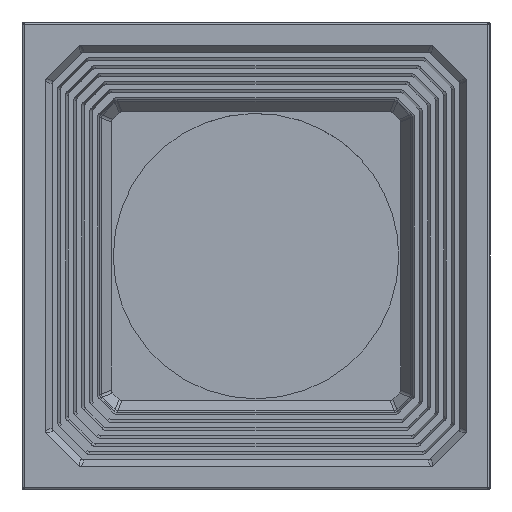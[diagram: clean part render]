
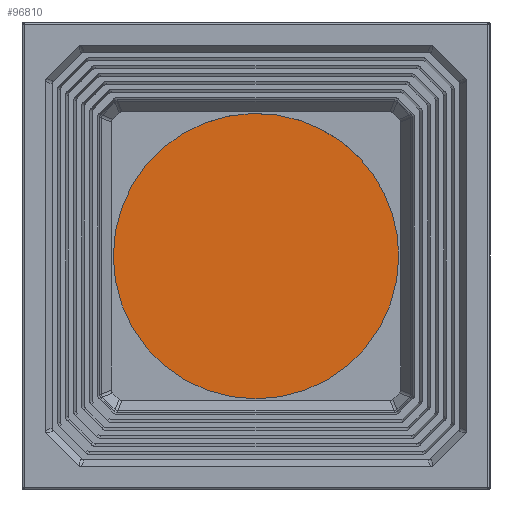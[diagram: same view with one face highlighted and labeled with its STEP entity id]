
A CAD part, top view. The second image highlights one B-rep face of the part: STEP entity #96810.
In plain terms, the highlighted planar face has unit normal (0, 0, 1).
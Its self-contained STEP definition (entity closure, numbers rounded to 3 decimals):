
#94280=CARTESIAN_POINT('',(0.,0.,14.2));
#94290=DIRECTION('',(0.,0.,1.));
#94300=DIRECTION('',(1.,0.,0.));
#94310=AXIS2_PLACEMENT_3D('',#94280,#94290,#94300);
#94320=PLANE('',#94310);
#94330=CARTESIAN_POINT('',(-9.45,1.55,14.2));
#94340=DIRECTION('',(0.,0.,-1.));
#94350=DIRECTION('',(1.,0.,0.));
#94360=AXIS2_PLACEMENT_3D('',#94330,#94340,#94350);
#94370=CIRCLE('',#94360,1.);
#94380=CARTESIAN_POINT('',(-10.45,1.55,14.2));
#94390=VERTEX_POINT('',#94380);
#94400=CARTESIAN_POINT('',(-10.386,1.902,14.2));
#94410=VERTEX_POINT('',#94400);
#94420=EDGE_CURVE('',#94390,#94410,#94370,.T.);
#94430=ORIENTED_EDGE('',*,*,#94420,.F.);
#94440=CARTESIAN_POINT('',(17.689,-8.671,14.2));
#94450=DIRECTION('',(0.,0.,-1.));
#94460=DIRECTION('',(1.,0.,0.));
#94470=AXIS2_PLACEMENT_3D('',#94440,#94450,#94460);
#94480=CIRCLE('',#94470,30.);
#94490=CARTESIAN_POINT('',(-9.249,4.533,14.2));
#94500=VERTEX_POINT('',#94490);
#94510=EDGE_CURVE('',#94410,#94500,#94480,.T.);
#94520=ORIENTED_EDGE('',*,*,#94510,.F.);
#94530=CARTESIAN_POINT('',(0.,0.,14.2));
#94540=DIRECTION('',(0.,0.,-1.));
#94550=DIRECTION('',(1.,0.,0.));
#94560=AXIS2_PLACEMENT_3D('',#94530,#94540,#94550);
#94570=CIRCLE('',#94560,10.3);
#94580=CARTESIAN_POINT('',(-6.117,8.287,14.2));
#94590=VERTEX_POINT('',#94580);
#94600=EDGE_CURVE('',#94500,#94590,#94570,.T.);
#94610=ORIENTED_EDGE('',*,*,#94600,.F.);
#94620=CARTESIAN_POINT('',(-5.82,7.884,14.2));
#94630=DIRECTION('',(0.,0.,-1.));
#94640=DIRECTION('',(1.,0.,0.));
#94650=AXIS2_PLACEMENT_3D('',#94620,#94630,#94640);
#94660=CIRCLE('',#94650,0.5);
#94670=CARTESIAN_POINT('',(-5.404,8.16,14.2));
#94680=VERTEX_POINT('',#94670);
#94690=EDGE_CURVE('',#94590,#94680,#94660,.T.);
#94700=ORIENTED_EDGE('',*,*,#94690,.F.);
#94710=CARTESIAN_POINT('',(0.,0.,14.2));
#94720=DIRECTION('',(0.552,-0.834,0.));
#94730=VECTOR('',#94720,1.);
#94740=LINE('',#94710,#94730);
#94750=CARTESIAN_POINT('',(-5.408,8.167,14.2));
#94760=VERTEX_POINT('',#94750);
#94770=EDGE_CURVE('',#94760,#94680,#94740,.T.);
#94780=ORIENTED_EDGE('',*,*,#94770,.T.);
#94790=CARTESIAN_POINT('',(-5.158,8.333,14.2));
#94800=DIRECTION('',(0.,0.,-1.));
#94810=DIRECTION('',(1.,0.,0.));
#94820=AXIS2_PLACEMENT_3D('',#94790,#94800,#94810);
#94830=CIRCLE('',#94820,0.3);
#94840=CARTESIAN_POINT('',(-5.,8.078,14.2));
#94850=VERTEX_POINT('',#94840);
#94860=EDGE_CURVE('',#94850,#94760,#94830,.T.);
#94870=ORIENTED_EDGE('',*,*,#94860,.T.);
#94880=CARTESIAN_POINT('',(0.,0.,14.2));
#94890=DIRECTION('',(0.,0.,1.));
#94900=DIRECTION('',(-1.,0.,0.));
#94910=AXIS2_PLACEMENT_3D('',#94880,#94890,#94900);
#94920=CIRCLE('',#94910,9.5);
#94930=CARTESIAN_POINT('',(5.,8.078,14.2));
#94940=VERTEX_POINT('',#94930);
#94950=EDGE_CURVE('',#94940,#94850,#94920,.T.);
#94960=ORIENTED_EDGE('',*,*,#94950,.T.);
#94970=CARTESIAN_POINT('',(5.158,8.333,14.2));
#94980=DIRECTION('',(0.,0.,1.));
#94990=DIRECTION('',(-1.,0.,0.));
#95000=AXIS2_PLACEMENT_3D('',#94970,#94980,#94990);
#95010=CIRCLE('',#95000,0.3);
#95020=CARTESIAN_POINT('',(5.408,8.167,14.2));
#95030=VERTEX_POINT('',#95020);
#95040=EDGE_CURVE('',#94940,#95030,#95010,.T.);
#95050=ORIENTED_EDGE('',*,*,#95040,.F.);
#95060=CARTESIAN_POINT('',(0.,0.,14.2));
#95070=DIRECTION('',(-0.552,-0.834,0.));
#95080=VECTOR('',#95070,1.);
#95090=LINE('',#95060,#95080);
#95100=CARTESIAN_POINT('',(5.404,8.16,14.2));
#95110=VERTEX_POINT('',#95100);
#95120=EDGE_CURVE('',#95030,#95110,#95090,.T.);
#95130=ORIENTED_EDGE('',*,*,#95120,.F.);
#95140=CARTESIAN_POINT('',(5.82,7.884,14.2));
#95150=DIRECTION('',(0.,0.,1.));
#95160=DIRECTION('',(-1.,0.,0.));
#95170=AXIS2_PLACEMENT_3D('',#95140,#95150,#95160);
#95180=CIRCLE('',#95170,0.5);
#95190=CARTESIAN_POINT('',(6.117,8.287,14.2));
#95200=VERTEX_POINT('',#95190);
#95210=EDGE_CURVE('',#95200,#95110,#95180,.T.);
#95220=ORIENTED_EDGE('',*,*,#95210,.T.);
#95230=CARTESIAN_POINT('',(0.,0.,14.2));
#95240=DIRECTION('',(0.,0.,1.));
#95250=DIRECTION('',(-1.,0.,0.));
#95260=AXIS2_PLACEMENT_3D('',#95230,#95240,#95250);
#95270=CIRCLE('',#95260,10.3);
#95280=CARTESIAN_POINT('',(9.249,4.533,14.2));
#95290=VERTEX_POINT('',#95280);
#95300=EDGE_CURVE('',#95290,#95200,#95270,.T.);
#95310=ORIENTED_EDGE('',*,*,#95300,.T.);
#95320=CARTESIAN_POINT('',(-17.689,-8.671,14.2));
#95330=DIRECTION('',(0.,0.,1.));
#95340=DIRECTION('',(-1.,0.,0.));
#95350=AXIS2_PLACEMENT_3D('',#95320,#95330,#95340);
#95360=CIRCLE('',#95350,30.);
#95370=CARTESIAN_POINT('',(10.386,1.902,14.2));
#95380=VERTEX_POINT('',#95370);
#95390=EDGE_CURVE('',#95380,#95290,#95360,.T.);
#95400=ORIENTED_EDGE('',*,*,#95390,.T.);
#95410=CARTESIAN_POINT('',(9.45,1.55,14.2));
#95420=DIRECTION('',(0.,0.,1.));
#95430=DIRECTION('',(-1.,0.,0.));
#95440=AXIS2_PLACEMENT_3D('',#95410,#95420,#95430);
#95450=CIRCLE('',#95440,1.);
#95460=CARTESIAN_POINT('',(10.45,1.55,14.2));
#95470=VERTEX_POINT('',#95460);
#95480=EDGE_CURVE('',#95470,#95380,#95450,.T.);
#95490=ORIENTED_EDGE('',*,*,#95480,.T.);
#95500=CARTESIAN_POINT('',(10.45,0.,14.2));
#95510=DIRECTION('',(0.,1.,0.));
#95520=VECTOR('',#95510,1.);
#95530=LINE('',#95500,#95520);
#95540=CARTESIAN_POINT('',(10.45,-1.55,14.2));
#95550=VERTEX_POINT('',#95540);
#95560=EDGE_CURVE('',#95550,#95470,#95530,.T.);
#95570=ORIENTED_EDGE('',*,*,#95560,.T.);
#95580=CARTESIAN_POINT('',(9.45,-1.55,14.2));
#95590=DIRECTION('',(0.,0.,-1.));
#95600=DIRECTION('',(-1.,0.,0.));
#95610=AXIS2_PLACEMENT_3D('',#95580,#95590,#95600);
#95620=CIRCLE('',#95610,1.);
#95630=CARTESIAN_POINT('',(10.386,-1.902,14.2));
#95640=VERTEX_POINT('',#95630);
#95650=EDGE_CURVE('',#95550,#95640,#95620,.T.);
#95660=ORIENTED_EDGE('',*,*,#95650,.F.);
#95670=CARTESIAN_POINT('',(-17.689,8.671,14.2));
#95680=DIRECTION('',(0.,0.,-1.));
#95690=DIRECTION('',(-1.,0.,0.));
#95700=AXIS2_PLACEMENT_3D('',#95670,#95680,#95690);
#95710=CIRCLE('',#95700,30.);
#95720=CARTESIAN_POINT('',(9.249,-4.533,14.2));
#95730=VERTEX_POINT('',#95720);
#95740=EDGE_CURVE('',#95640,#95730,#95710,.T.);
#95750=ORIENTED_EDGE('',*,*,#95740,.F.);
#95760=CARTESIAN_POINT('',(0.,0.,14.2));
#95770=DIRECTION('',(0.,0.,-1.));
#95780=DIRECTION('',(-1.,0.,0.));
#95790=AXIS2_PLACEMENT_3D('',#95760,#95770,#95780);
#95800=CIRCLE('',#95790,10.3);
#95810=CARTESIAN_POINT('',(6.117,-8.287,14.2));
#95820=VERTEX_POINT('',#95810);
#95830=EDGE_CURVE('',#95730,#95820,#95800,.T.);
#95840=ORIENTED_EDGE('',*,*,#95830,.F.);
#95850=CARTESIAN_POINT('',(5.82,-7.884,14.2));
#95860=DIRECTION('',(0.,0.,-1.));
#95870=DIRECTION('',(-1.,0.,0.));
#95880=AXIS2_PLACEMENT_3D('',#95850,#95860,#95870);
#95890=CIRCLE('',#95880,0.5);
#95900=CARTESIAN_POINT('',(5.404,-8.16,14.2));
#95910=VERTEX_POINT('',#95900);
#95920=EDGE_CURVE('',#95820,#95910,#95890,.T.);
#95930=ORIENTED_EDGE('',*,*,#95920,.F.);
#95940=CARTESIAN_POINT('',(0.,0.,14.2));
#95950=DIRECTION('',(-0.552,0.834,0.));
#95960=VECTOR('',#95950,1.);
#95970=LINE('',#95940,#95960);
#95980=CARTESIAN_POINT('',(5.408,-8.167,14.2));
#95990=VERTEX_POINT('',#95980);
#96000=EDGE_CURVE('',#95990,#95910,#95970,.T.);
#96010=ORIENTED_EDGE('',*,*,#96000,.T.);
#96020=CARTESIAN_POINT('',(5.158,-8.333,14.2));
#96030=DIRECTION('',(0.,0.,-1.));
#96040=DIRECTION('',(-1.,0.,0.));
#96050=AXIS2_PLACEMENT_3D('',#96020,#96030,#96040);
#96060=CIRCLE('',#96050,0.3);
#96070=CARTESIAN_POINT('',(5.,-8.078,14.2));
#96080=VERTEX_POINT('',#96070);
#96090=EDGE_CURVE('',#96080,#95990,#96060,.T.);
#96100=ORIENTED_EDGE('',*,*,#96090,.T.);
#96110=CARTESIAN_POINT('',(0.,0.,14.2));
#96120=DIRECTION('',(0.,0.,-1.));
#96130=DIRECTION('',(-1.,0.,0.));
#96140=AXIS2_PLACEMENT_3D('',#96110,#96120,#96130);
#96150=CIRCLE('',#96140,9.5);
#96160=CARTESIAN_POINT('',(-5.,-8.078,14.2));
#96170=VERTEX_POINT('',#96160);
#96180=EDGE_CURVE('',#96080,#96170,#96150,.T.);
#96190=ORIENTED_EDGE('',*,*,#96180,.F.);
#96200=CARTESIAN_POINT('',(-5.158,-8.333,14.2));
#96210=DIRECTION('',(0.,0.,1.));
#96220=DIRECTION('',(1.,0.,0.));
#96230=AXIS2_PLACEMENT_3D('',#96200,#96210,#96220);
#96240=CIRCLE('',#96230,0.3);
#96250=CARTESIAN_POINT('',(-5.408,-8.167,14.2));
#96260=VERTEX_POINT('',#96250);
#96270=EDGE_CURVE('',#96170,#96260,#96240,.T.);
#96280=ORIENTED_EDGE('',*,*,#96270,.F.);
#96290=CARTESIAN_POINT('',(0.,0.,14.2));
#96300=DIRECTION('',(0.552,0.834,0.));
#96310=VECTOR('',#96300,1.);
#96320=LINE('',#96290,#96310);
#96330=CARTESIAN_POINT('',(-5.404,-8.16,14.2));
#96340=VERTEX_POINT('',#96330);
#96350=EDGE_CURVE('',#96260,#96340,#96320,.T.);
#96360=ORIENTED_EDGE('',*,*,#96350,.F.);
#96370=CARTESIAN_POINT('',(-5.82,-7.884,14.2));
#96380=DIRECTION('',(0.,0.,1.));
#96390=DIRECTION('',(1.,0.,0.));
#96400=AXIS2_PLACEMENT_3D('',#96370,#96380,#96390);
#96410=CIRCLE('',#96400,0.5);
#96420=CARTESIAN_POINT('',(-6.117,-8.287,14.2));
#96430=VERTEX_POINT('',#96420);
#96440=EDGE_CURVE('',#96430,#96340,#96410,.T.);
#96450=ORIENTED_EDGE('',*,*,#96440,.T.);
#96460=CARTESIAN_POINT('',(0.,0.,14.2));
#96470=DIRECTION('',(0.,0.,1.));
#96480=DIRECTION('',(1.,0.,0.));
#96490=AXIS2_PLACEMENT_3D('',#96460,#96470,#96480);
#96500=CIRCLE('',#96490,10.3);
#96510=CARTESIAN_POINT('',(-9.249,-4.533,14.2));
#96520=VERTEX_POINT('',#96510);
#96530=EDGE_CURVE('',#96520,#96430,#96500,.T.);
#96540=ORIENTED_EDGE('',*,*,#96530,.T.);
#96550=CARTESIAN_POINT('',(17.689,8.671,14.2));
#96560=DIRECTION('',(0.,0.,1.));
#96570=DIRECTION('',(1.,0.,0.));
#96580=AXIS2_PLACEMENT_3D('',#96550,#96560,#96570);
#96590=CIRCLE('',#96580,30.);
#96600=CARTESIAN_POINT('',(-10.386,-1.902,14.2));
#96610=VERTEX_POINT('',#96600);
#96620=EDGE_CURVE('',#96610,#96520,#96590,.T.);
#96630=ORIENTED_EDGE('',*,*,#96620,.T.);
#96640=CARTESIAN_POINT('',(-9.45,-1.55,14.2));
#96650=DIRECTION('',(0.,0.,1.));
#96660=DIRECTION('',(1.,0.,0.));
#96670=AXIS2_PLACEMENT_3D('',#96640,#96650,#96660);
#96680=CIRCLE('',#96670,1.);
#96690=CARTESIAN_POINT('',(-10.45,-1.55,14.2));
#96700=VERTEX_POINT('',#96690);
#96710=EDGE_CURVE('',#96700,#96610,#96680,.T.);
#96720=ORIENTED_EDGE('',*,*,#96710,.T.);
#96730=CARTESIAN_POINT('',(-10.45,0.,14.2));
#96740=DIRECTION('',(0.,1.,0.));
#96750=VECTOR('',#96740,1.);
#96760=LINE('',#96730,#96750);
#96770=EDGE_CURVE('',#96700,#94390,#96760,.T.);
#96780=ORIENTED_EDGE('',*,*,#96770,.F.);
#96790=EDGE_LOOP('',(#96780,#96720,#96630,#96540,#96450,#96360,#96280,
#96190,#96100,#96010,#95930,#95840,#95750,#95660,#95570,#95490,#95400,
#95310,#95220,#95130,#95050,#94960,#94870,#94780,#94700,#94610,#94520,
#94430));
#96800=FACE_OUTER_BOUND('',#96790,.T.);
#96810=ADVANCED_FACE('',(#96800),#94320,.T.);
